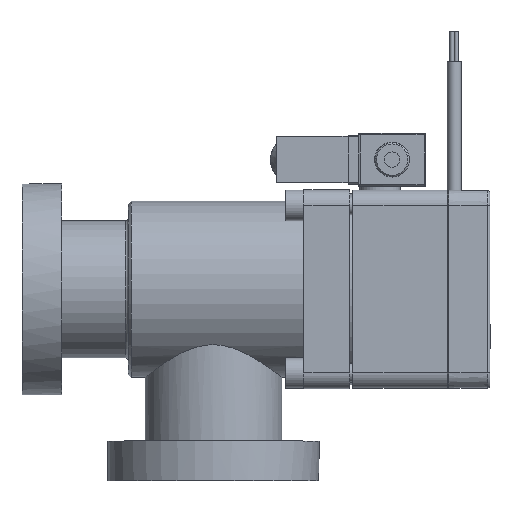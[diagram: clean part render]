
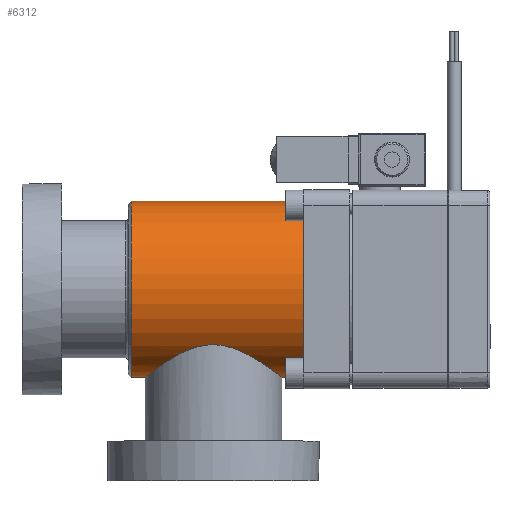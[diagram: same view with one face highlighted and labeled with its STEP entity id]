
A CAD part, top view. The second image highlights one B-rep face of the part: STEP entity #6312.
In plain terms, the highlighted cylindrical face has radius 28.95 mm (diameter 57.9 mm), a full revolution.
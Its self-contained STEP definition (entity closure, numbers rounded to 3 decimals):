
#2679=B_SPLINE_CURVE_WITH_KNOTS('',3,(#22053,#22054,#22055,#22056,#22057,
#22058,#22059,#22060,#22061,#22062,#22063,#22064,#22065,#22066,#22067,#22068,
#22069,#22070,#22071,#22072,#22073,#22074,#22075,#22076,#22077,#22078,#22079,
#22080,#22081,#22082,#22083,#22084,#22085,#22086),.UNSPECIFIED.,.T.,.F.,
(2,2,2,2,2,2,2,2,2,2,2,2,2,2,2,2,2,2,2),(-0.063,0.,0.063,0.125,
0.188,0.25,0.313,0.375,0.438,0.5,0.563,0.625,0.688,0.75,0.813,0.875,
0.938,1.,1.063),.UNSPECIFIED.);
#5672=CYLINDRICAL_SURFACE('',#14973,28.95);
#6312=ADVANCED_FACE('',(#6885,#6886,#6887),#5672,.T.);
#6885=FACE_BOUND('',#7848,.T.);
#6886=FACE_BOUND('',#7849,.T.);
#6887=FACE_BOUND('',#7850,.T.);
#7848=EDGE_LOOP('',(#10590));
#7849=EDGE_LOOP('',(#10591));
#7850=EDGE_LOOP('',(#10592));
#10590=ORIENTED_EDGE('',*,*,#13369,.T.);
#10591=ORIENTED_EDGE('',*,*,#13370,.T.);
#10592=ORIENTED_EDGE('',*,*,#13371,.T.);
#11929=VERTEX_POINT('',#22050);
#11930=VERTEX_POINT('',#22052);
#11931=VERTEX_POINT('',#22087);
#13369=EDGE_CURVE('',#11929,#11929,#13941,.T.);
#13370=EDGE_CURVE('',#11930,#11930,#13942,.T.);
#13371=EDGE_CURVE('',#11931,#11931,#2679,.T.);
#13941=CIRCLE('',#14971,28.95);
#13942=CIRCLE('',#14972,28.95);
#14971=AXIS2_PLACEMENT_3D('',#22049,#17926,#17927);
#14972=AXIS2_PLACEMENT_3D('',#22051,#17928,#17929);
#14973=AXIS2_PLACEMENT_3D('',#22088,#17930,#17931);
#17926=DIRECTION('',(1.,0.,0.));
#17927=DIRECTION('',(0.,0.,-1.));
#17928=DIRECTION('',(-1.,0.,0.));
#17929=DIRECTION('',(0.,0.,1.));
#17930=DIRECTION('',(-1.,0.,0.));
#17931=DIRECTION('',(0.,0.,1.));
#22049=CARTESIAN_POINT('',(35.4,0.,0.));
#22050=CARTESIAN_POINT('',(35.4,0.,-28.95));
#22051=CARTESIAN_POINT('',(91.9,0.,0.));
#22052=CARTESIAN_POINT('',(91.9,0.,28.95));
#22053=CARTESIAN_POINT('',(59.651,20.931,-20.));
#22054=CARTESIAN_POINT('',(65.149,20.931,-20.));
#22055=CARTESIAN_POINT('',(67.803,21.502,-19.429));
#22056=CARTESIAN_POINT('',(72.562,23.16,-17.419));
#22057=CARTESIAN_POINT('',(74.683,24.223,-15.984));
#22058=CARTESIAN_POINT('',(78.267,26.223,-12.433));
#22059=CARTESIAN_POINT('',(79.739,27.168,-10.307));
#22060=CARTESIAN_POINT('',(81.809,28.534,-5.493));
#22061=CARTESIAN_POINT('',(82.393,28.945,-2.776));
#22062=CARTESIAN_POINT('',(82.407,28.955,2.679));
#22063=CARTESIAN_POINT('',(81.84,28.556,5.383));
#22064=CARTESIAN_POINT('',(79.789,27.201,10.224));
#22065=CARTESIAN_POINT('',(78.317,26.253,12.374));
#22066=CARTESIAN_POINT('',(74.716,24.24,15.961));
#22067=CARTESIAN_POINT('',(72.629,23.188,17.383));
#22068=CARTESIAN_POINT('',(67.835,21.508,19.423));
#22069=CARTESIAN_POINT('',(65.145,20.937,19.994));
#22070=CARTESIAN_POINT('',(59.745,20.925,20.006));
#22071=CARTESIAN_POINT('',(57.033,21.491,19.442));
#22072=CARTESIAN_POINT('',(52.231,23.161,17.418));
#22073=CARTESIAN_POINT('',(50.129,24.217,15.994));
#22074=CARTESIAN_POINT('',(46.535,26.222,12.438));
#22075=CARTESIAN_POINT('',(45.054,27.173,10.296));
#22076=CARTESIAN_POINT('',(42.984,28.539,5.47));
#22077=CARTESIAN_POINT('',(42.406,28.946,2.756));
#22078=CARTESIAN_POINT('',(42.394,28.954,-2.662));
#22079=CARTESIAN_POINT('',(42.958,28.557,-5.386));
#22080=CARTESIAN_POINT('',(45.031,27.188,-10.263));
#22081=CARTESIAN_POINT('',(46.513,26.235,-12.409));
#22082=CARTESIAN_POINT('',(50.094,24.235,-15.967));
#22083=CARTESIAN_POINT('',(52.225,23.168,-17.409));
#22084=CARTESIAN_POINT('',(56.952,21.514,-19.414));
#22085=CARTESIAN_POINT('',(59.651,20.931,-20.));
#22086=CARTESIAN_POINT('',(65.149,20.931,-20.));
#22087=CARTESIAN_POINT('',(62.4,20.931,-20.));
#22088=CARTESIAN_POINT('',(0.,0.,0.));
